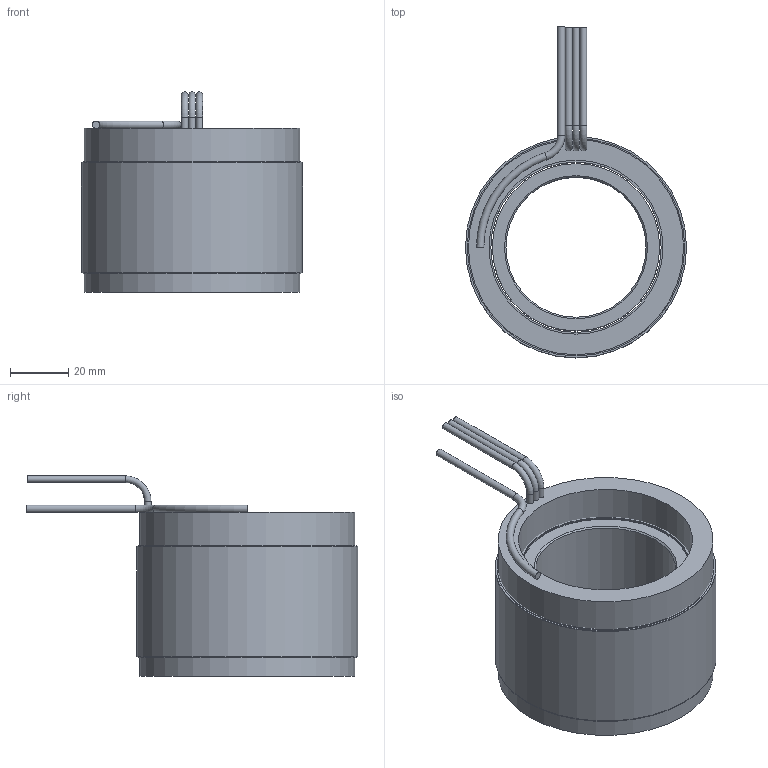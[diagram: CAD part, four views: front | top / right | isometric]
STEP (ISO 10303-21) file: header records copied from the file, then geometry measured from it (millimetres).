
FILE_DESCRIPTION (( 'STEP AP214' ), '1' );
FILE_NAME ('6100392-04.STEP', '2020-12-15T03:01:23', ( '' ), ( '' ), 'SwSTEP 2.0', 'SolidWorks 2016', '' );
FILE_SCHEMA (( 'AUTOMOTIVE_DESIGN' ));
Length unit declared in the file: inch
Products named in the file (10): 4250380-XX_4250380-04; 4150179-XX_4150179-04; COMP4500559-XX(COIL)_COMP4500559-04(COIL); 4600566-00; 4400102-00; 4450190-XX_4450190-04; 4500559-XX_4500559-04; 6100392-04
Assembly tree (10 placements, depth 4):
  6100392-04
    4500559-XX_4500559-04
      4450190-XX_4450190-04
        4450190-XX_4450190-04
        4400102-00
        4400102-00
        4600566-00  x2
      COMP4500559-XX(COIL)_COMP4500559-04(COIL)
    4250380-XX_4250380-04
      4150179-XX_4150179-04
Bounding box: 76.2 x 114.3 x 68.96 mm (x, y, z)
Volume: 186891.7 mm3; surface area: 77010.6 mm2
Topology: 8 solids, 8 shells, 47 faces, 74 edges, 46 vertices
Faces by surface type: cylinder 21, plane 19, torus 5, cone 2
Full cylindrical faces by diameter (mm): 2.286 x6, 2.54 x1, 48.26 x1, 57.658 x1, 58.674 x5, 59.944 x1, 74.168 x1, 74.93 x2, 76.2 x3
Entity records: 1305 total; most frequent: DIRECTION 202, CARTESIAN_POINT 143, AXIS2_PLACEMENT_3D 101, EDGE_LOOP 84, ORIENTED_EDGE 84, FACE_OUTER_BOUND 67, ADVANCED_FACE 43, CIRCLE 42
